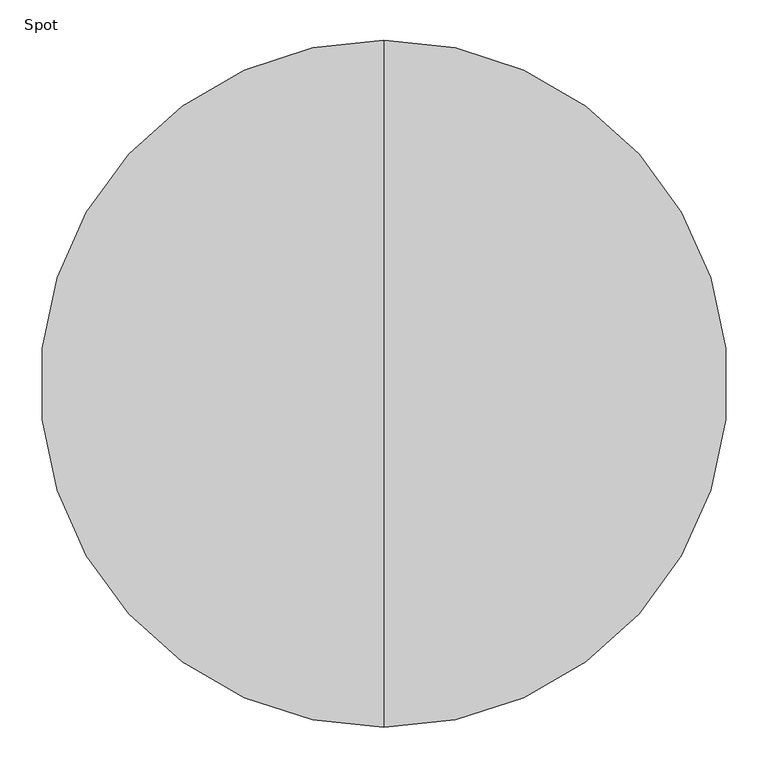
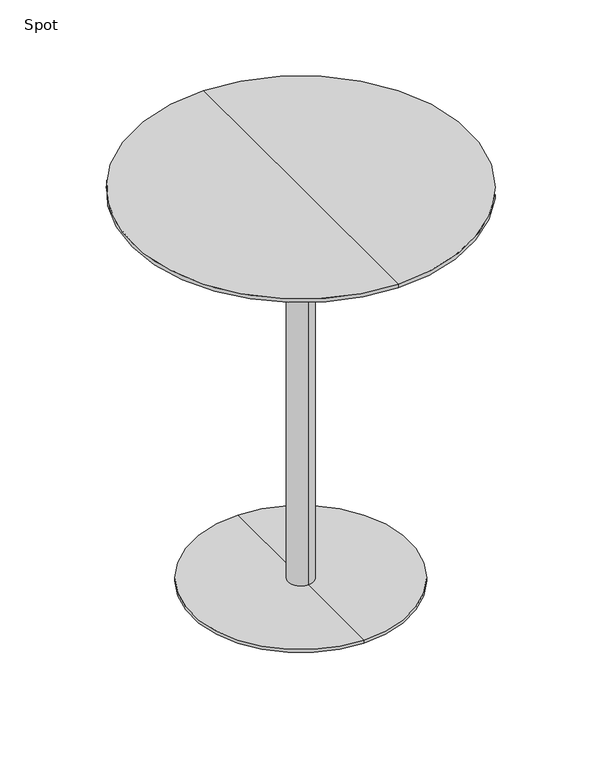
"""IFC4 building model written with IfcOpenShell, lengths in millimetres: furniture geometry, Spot : ø85x105."""

from ifc_helpers import new_model, si_unit, frame, origin, place, context, project, spatial, polyline, circle_curve, source, transform, mapped, element, save
from ifc_brep_helpers import plane_surface, cylinder_surface, revolved_surface, advanced_brep


def spot_2d7e0fac(model_context):
    return source(origin(), model_context, "Body", "AdvancedBrep", [
        advanced_brep(
        [(0.0, 425.0, 1050.0), (0.0, -425.0, 1050.0), (0.0, 0.0, 1050.0), (0.0, 425.0, 1040.25), (0.0, -425.0, 1040.25), (0.0, 379.2823776, 1028.0), (0.0, -379.2823776, 1028.0), (0.0, 0.0, 1028.0)],
        [
            (0, 1, circle_curve(frame((0.0, 0.0, 1050.0), z_axis=(0.0, 0.0, 1.0), x_axis=(0.0, -1.0, 0.0)), 425.0)),
            (1, 2),
            (2, 0),
            (1, 0, circle_curve(frame((0.0, 0.0, 1050.0), z_axis=(0.0, 0.0, 1.0), x_axis=(0.0, -1.0, 0.0)), 425.0)),
            (3, 4, circle_curve(frame((0.0, 0.0, 1040.25), z_axis=(0.0, 0.0, 1.0), x_axis=(0.0, -1.0, 0.0)), 425.0)),
            (4, 1),
            (0, 3),
            (4, 3, circle_curve(frame((0.0, 0.0, 1040.25), z_axis=(0.0, 0.0, 1.0), x_axis=(0.0, -1.0, 0.0)), 425.0)),
            (5, 6, circle_curve(frame((0.0, 0.0, 1028.0), z_axis=(0.0, 0.0, 1.0), x_axis=(0.0, -1.0, 0.0)), 379.2823776)),
            (6, 4),
            (3, 5),
            (6, 5, circle_curve(frame((0.0, 0.0, 1028.0), z_axis=(0.0, 0.0, 1.0), x_axis=(0.0, -1.0, 0.0)), 379.2823776)),
            (7, 6),
            (5, 7),
        ],
        [
            plane_surface(frame((0.0, 0.0, 1050.0), z_axis=(0.0, 0.0, 1.0), x_axis=(0.0, -1.0, 0.0))),
            cylinder_surface(frame((0.0, 0.0, 1130.0), z_axis=(0.0, 0.0, -1.0), x_axis=(0.0, -1.0, 0.0)), 425.0),
            revolved_surface(polyline([(0.0, -425.0, 1040.25), (0.0, -379.2823776, 1028.0)]), (0.0, 0.0, 1130.0), (0.0, 0.0, -1.0)),
            plane_surface(frame((0.0, 0.0, 1028.0), z_axis=(0.0, 0.0, -1.0), x_axis=(0.0, -1.0, 0.0))),
        ],
        [
            (0, [[1, 2, 3]]),
            (0, [[4, -3, -2]]),
            (1, [[5, 6, -1, 7]]),
            (1, [[8, -7, -4, -6]]),
            (2, [[9, 10, -5, 11]]),
            (2, [[12, -11, -8, -10]]),
            (3, [[13, -9, 14]]),
            (3, [[-14, -12, -13]]),
        ],
    ),
        advanced_brep(
        [(0.0, 32.0, 10.0), (0.0, -32.0, 10.0), (0.0, -32.0, 997.406916), (0.0, 32.0, 997.406916), (0.0, 275.0, 10.0), (0.0, -275.0, 10.0), (0.0, 275.0, 2.0), (0.0, -275.0, 2.0), (0.0, 0.0, 2.0), (0.0, 150.0, 1028.0), (0.0, -150.0, 1028.0), (0.0, 0.0, 1028.0), (0.0, 150.0, 1016.7213673), (0.0, -150.0, 1016.7213673)],
        [
            (0, 1, circle_curve(frame((0.0, 0.0, 10.0), z_axis=(0.0, 0.0, 1.0), x_axis=(0.0, -1.0, 0.0)), 32.0)),
            (1, 2),
            (2, 3, circle_curve(frame((0.0, 0.0, 997.406916), z_axis=(0.0, 0.0, -1.0), x_axis=(0.0, -1.0, 0.0)), 32.0)),
            (3, 0),
            (1, 0, circle_curve(frame((0.0, 0.0, 10.0), z_axis=(0.0, 0.0, 1.0), x_axis=(0.0, -1.0, 0.0)), 32.0)),
            (3, 2, circle_curve(frame((0.0, 0.0, 997.406916), z_axis=(0.0, 0.0, -1.0), x_axis=(0.0, -1.0, 0.0)), 32.0)),
            (4, 5, circle_curve(frame((0.0, 0.0, 10.0), z_axis=(0.0, 0.0, 1.0), x_axis=(0.0, -1.0, 0.0)), 275.0)),
            (5, 1),
            (0, 4),
            (5, 4, circle_curve(frame((0.0, 0.0, 10.0), z_axis=(0.0, 0.0, 1.0), x_axis=(0.0, -1.0, 0.0)), 275.0)),
            (6, 7, circle_curve(frame((0.0, 0.0, 2.0), z_axis=(0.0, 0.0, 1.0), x_axis=(0.0, -1.0, 0.0)), 275.0)),
            (7, 5),
            (4, 6),
            (7, 6, circle_curve(frame((0.0, 0.0, 2.0), z_axis=(0.0, 0.0, 1.0), x_axis=(0.0, -1.0, 0.0)), 275.0)),
            (8, 7),
            (6, 8),
            (9, 10, circle_curve(frame((0.0, 0.0, 1028.0), z_axis=(0.0, 0.0, 1.0), x_axis=(0.0, -1.0, 0.0)), 150.0)),
            (10, 11),
            (11, 9),
            (10, 9, circle_curve(frame((0.0, 0.0, 1028.0), z_axis=(0.0, 0.0, 1.0), x_axis=(0.0, -1.0, 0.0)), 150.0)),
            (12, 13, circle_curve(frame((0.0, 0.0, 1016.7213673), z_axis=(0.0, 0.0, 1.0), x_axis=(0.0, -1.0, 0.0)), 150.0)),
            (13, 10),
            (9, 12),
            (13, 12, circle_curve(frame((0.0, 0.0, 1016.7213673), z_axis=(0.0, 0.0, 1.0), x_axis=(0.0, -1.0, 0.0)), 150.0)),
            (2, 13),
            (12, 3),
        ],
        [
            cylinder_surface(frame((0.0, 0.0, 1390.0), z_axis=(0.0, 0.0, -1.0), x_axis=(0.0, -1.0, 0.0)), 32.0),
            plane_surface(frame((0.0, 0.0, 10.0), z_axis=(0.0, 0.0, 1.0), x_axis=(0.0, -1.0, 0.0))),
            cylinder_surface(frame((0.0, 0.0, 1390.0), z_axis=(0.0, 0.0, -1.0), x_axis=(0.0, -1.0, 0.0)), 275.0),
            plane_surface(frame((0.0, 0.0, 2.0), z_axis=(0.0, 0.0, -1.0), x_axis=(0.0, -1.0, 0.0))),
            plane_surface(frame((0.0, 0.0, 1028.0), z_axis=(0.0, 0.0, 1.0), x_axis=(0.0, -1.0, 0.0))),
            cylinder_surface(frame((0.0, 0.0, 1390.0), z_axis=(0.0, 0.0, -1.0), x_axis=(0.0, -1.0, 0.0)), 150.0),
            revolved_surface(polyline([(0.0, -150.0, 1016.7213673), (0.0, -32.0, 997.406916)]), (0.0, 0.0, 1390.0), (0.0, 0.0, -1.0)),
        ],
        [
            (0, [[1, 2, 3, 4]]),
            (0, [[5, -4, 6, -2]]),
            (1, [[7, 8, -1, 9]]),
            (1, [[10, -9, -5, -8]]),
            (2, [[11, 12, -7, 13]]),
            (2, [[14, -13, -10, -12]]),
            (3, [[15, -11, 16]]),
            (3, [[-16, -14, -15]]),
            (4, [[17, 18, 19]]),
            (4, [[20, -19, -18]]),
            (5, [[21, 22, -17, 23]]),
            (5, [[24, -23, -20, -22]]),
            (6, [[-3, 25, -21, 26]]),
            (6, [[-6, -26, -24, -25]]),
        ],
    ),
    ])


if __name__ == "__main__":
    model = new_model("IFC4")
    model_context = context("Model", 3, world=origin())
    ifc_project = project(units=[si_unit("LENGTHUNIT", "METRE", prefix="MILLI")], contexts=[model_context])
    site = spatial("IfcSite", under=ifc_project)
    building = spatial("IfcBuilding", under=site)
    placement = place(None, origin())
    spot_shape = spot_2d7e0fac(model_context)
    element("IfcFurniture", 1, ObjectType="Spot : ø85x105", at=placement, inside=building, context=model_context, shape_type="MappedRepresentation", body=[
        mapped(spot_shape, transform((0.0, 0.0, 0.0), x_axis=(1.0, 0.0, 0.0), y_axis=(0.0, 1.0, 0.0), z_axis=(0.0, 0.0, 1.0))),
    ])
    save(model, "model.ifc")
